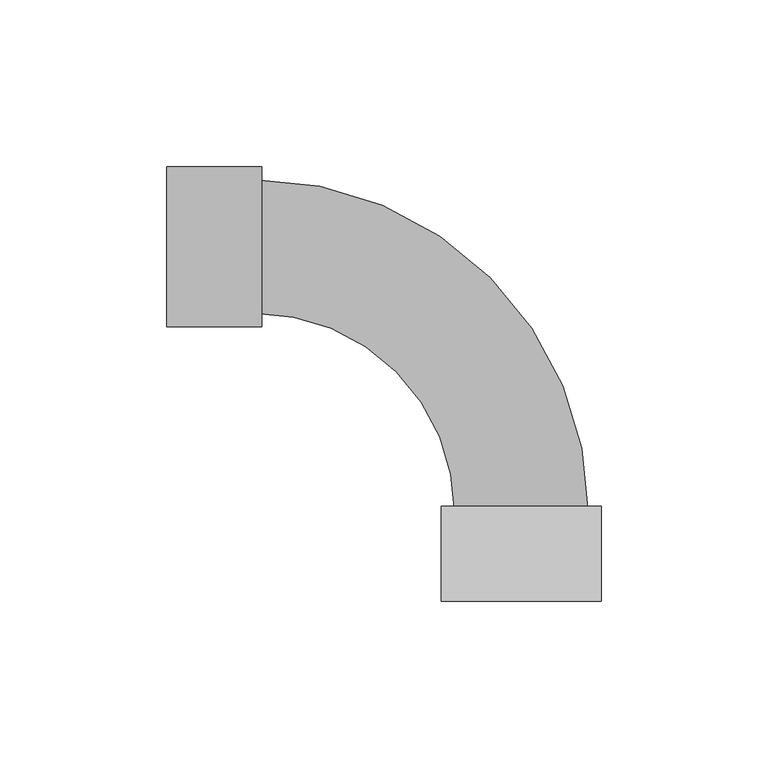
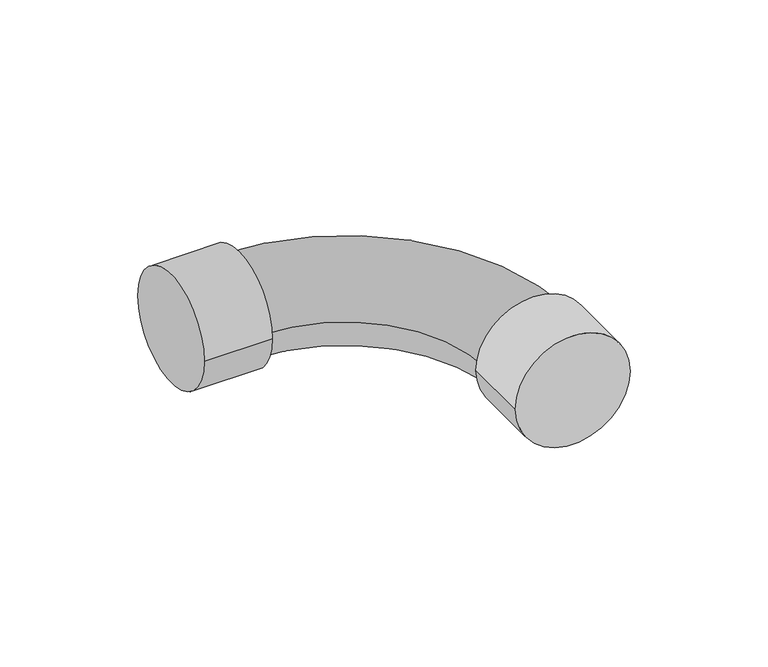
"""IFC4 building model written with IfcOpenShell, lengths in millimetres: pipe fitting geometry, 01051159 : Courbes à 90º  FxF."""

from ifc_helpers import new_model, si_unit, point, frame, origin, origin_2d, place, context, project, spatial, circle_curve, ellipse_curve, trimmed, segment, composite_curve, outline, extrude, source, transform, mapped, element, save
from ifc_brep_helpers import plane_surface, revolved_surface, advanced_brep


def pipe_fitting_0a775be0(model_context):
    return source(origin(), model_context, "Body", "SolidModel", [
        extrude(outline(composite_curve([segment(trimmed(circle_curve(origin_2d(), 24.0), [point((24.0, 0.0))], [point((-24.0, 0.0))], False, "CARTESIAN"), True, "CONTINUOUS"), segment(trimmed(circle_curve(origin_2d(), 24.0), [point((-24.0, 0.0))], [point((24.0, 0.0))], False, "CARTESIAN"), True, "CONTINUOUS")], self_intersect=False)), frame((-106.5, 0.0, 0.0), z_axis=(1.0, 0.0, 0.0), x_axis=(0.0, 1.0, 0.0)), (0.0, 0.0, 1.0), 28.5),
        extrude(outline(composite_curve([segment(trimmed(circle_curve(origin_2d(), 24.0), [point((0.0, -24.0))], [point((0.0, 24.0))], False, "CARTESIAN"), True, "CONTINUOUS"), segment(trimmed(circle_curve(origin_2d(), 24.0), [point((0.0, 24.0))], [point((0.0, -24.0))], False, "CARTESIAN"), True, "CONTINUOUS")], self_intersect=False)), frame((0.0, -106.5, 0.0), z_axis=(0.0, 1.0, 0.0), x_axis=(0.0, 0.0, 1.0)), (0.0, 0.0, 1.0), 28.5),
        advanced_brep(
        [(-20.0, -80.0, 0.0), (20.0, -80.0, 0.0), (-80.0, -20.0, 0.0), (-80.0, 20.0, 0.0)],
        [
            (0, 1, circle_curve(frame((0.0, -80.0, 0.0), z_axis=(0.0, -1.0, 0.0), x_axis=(1.0, 0.0, 0.0)), 20.0)),
            (1, 0, circle_curve(frame((0.0, -80.0, 0.0), z_axis=(0.0, -1.0, 0.0), x_axis=(1.0, 0.0, 0.0)), 20.0)),
            (2, 3, circle_curve(frame((-80.0, 0.0, 0.0), z_axis=(-1.0, 0.0, 0.0), x_axis=(0.0, 1.0, 0.0)), 20.0)),
            (3, 2, circle_curve(frame((-80.0, 0.0, 0.0), z_axis=(-1.0, 0.0, 0.0), x_axis=(0.0, 1.0, 0.0)), 20.0)),
            (2, 0, circle_curve(frame((-80.0, -80.0, 0.0), z_axis=(0.0, 0.0, -1.0), x_axis=(1.0, 0.0, 0.0)), 60.0)),
            (1, 3, circle_curve(frame((-80.0, -80.0, 0.0), z_axis=(0.0, 0.0, 1.0), x_axis=(1.0, 0.0, 0.0)), 100.0)),
        ],
        [
            plane_surface(frame((0.0, -80.0, 0.0), z_axis=(0.0, -1.0, 0.0), x_axis=(0.0, 0.0, 1.0))),
            plane_surface(frame((-80.0, 0.0, 0.0), z_axis=(-1.0, 0.0, 0.0), x_axis=(0.0, 0.0, 1.0))),
            revolved_surface(trimmed(ellipse_curve(frame((0.0, -80.0, 0.0), z_axis=(0.0, 1.0, 0.0), x_axis=(1.0, 0.0, 0.0)), 20.0, 20.0), [point((-20.0, -80.0, 0.0))], [point((20.0, -80.0, 0.0))], True, "CARTESIAN"), (-80.0, -80.0, 0.0), (0.0, 0.0, -1.0)),
            revolved_surface(trimmed(ellipse_curve(frame((0.0, -80.0, 0.0), z_axis=(0.0, 1.0, 0.0), x_axis=(1.0, 0.0, 0.0)), 20.0, 20.0), [point((20.0, -80.0, 0.0))], [point((-20.0, -80.0, 0.0))], True, "CARTESIAN"), (-80.0, -80.0, 0.0), (0.0, 0.0, -1.0)),
        ],
        [
            (0, [[1, 2]]),
            (1, [[3, 4]]),
            (2, [[-3, 5, -2, 6]]),
            (3, [[-4, -6, -1, -5]]),
        ],
    ),
    ])


if __name__ == "__main__":
    model = new_model("IFC4")
    model_context = context("Model", 3, world=origin())
    ifc_project = project(units=[si_unit("LENGTHUNIT", "METRE", prefix="MILLI")], contexts=[model_context])
    site = spatial("IfcSite", under=ifc_project)
    building = spatial("IfcBuilding", under=site)
    placement = place(None, origin())
    pipe_fitting_shape = pipe_fitting_0a775be0(model_context)
    element("IfcPipeFitting", 1, ObjectType="01051159 : Courbes à 90º  FxF", at=placement, inside=building, context=model_context, shape_type="MappedRepresentation", body=[
        mapped(pipe_fitting_shape, transform((0.0, 0.0, 0.0), x_axis=(1.0, 0.0, 0.0), y_axis=(0.0, 1.0, 0.0), z_axis=(0.0, 0.0, 1.0))),
    ])
    save(model, "model.ifc")
